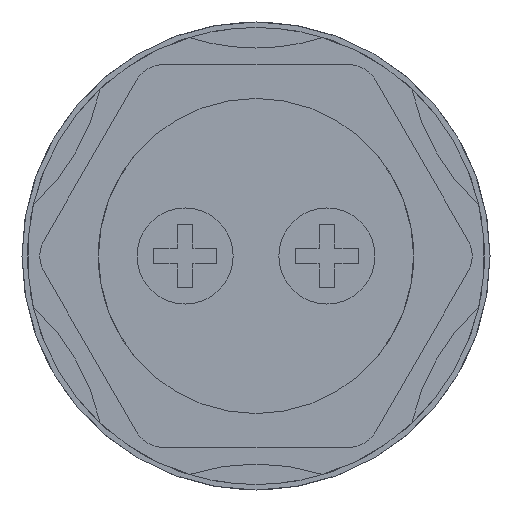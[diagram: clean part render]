
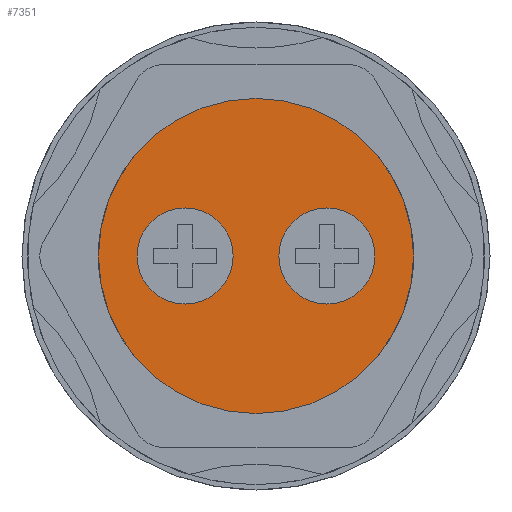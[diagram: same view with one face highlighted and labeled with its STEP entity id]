
A CAD part, front view. The second image highlights one B-rep face of the part: STEP entity #7351.
In plain terms, the highlighted planar face has unit normal (0, -1, 0).
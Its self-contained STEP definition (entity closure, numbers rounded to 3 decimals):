
#236 = CARTESIAN_POINT ( 'NONE',  ( 4.5, -32.5, 0. ) ) ;
#240 = DIRECTION ( 'NONE',  ( 0., 1., 0. ) ) ;
#241 = DIRECTION ( 'NONE',  ( 0., 0., -1. ) ) ;
#848 = AXIS2_PLACEMENT_3D ( 'NONE', #7595, #7555, #7553 ) ;
#1453 = AXIS2_PLACEMENT_3D ( 'NONE', #4081, #4142, #4169 ) ;
#1795 = CARTESIAN_POINT ( 'NONE',  ( 4.5, -32.5, 0. ) ) ;
#1796 = DIRECTION ( 'NONE',  ( 0., 1., 0. ) ) ;
#1797 = DIRECTION ( 'NONE',  ( 0., 0., -1. ) ) ;
#1939 = PLANE ( 'NONE',  #6064 ) ;
#1940 = CARTESIAN_POINT ( 'NONE',  ( 0., -32.5, 0. ) ) ;
#1941 = DIRECTION ( 'NONE',  ( 0., -1., 0. ) ) ;
#1942 = DIRECTION ( 'NONE',  ( 0., 0., -1. ) ) ;
#1999 = CARTESIAN_POINT ( 'NONE',  ( -4.5, -32.5, 0. ) ) ;
#2003 = DIRECTION ( 'NONE',  ( 0., -1., 0. ) ) ;
#2004 = DIRECTION ( 'NONE',  ( 0., 0., -1. ) ) ;
#2263 = CARTESIAN_POINT ( 'NONE',  ( -4.5, -32.5, 0. ) ) ;
#2264 = DIRECTION ( 'NONE',  ( 0., -1., 0. ) ) ;
#2265 = DIRECTION ( 'NONE',  ( 0., 0., -1. ) ) ;
#2398 = VERTEX_POINT ( 'NONE', #4940 ) ;
#2444 = VERTEX_POINT ( 'NONE', #5358 ) ;
#2600 = VERTEX_POINT ( 'NONE', #5014 ) ;
#2615 = VERTEX_POINT ( 'NONE', #5136 ) ;
#2830 = ORIENTED_EDGE ( 'NONE', *, *, #7443, .F. ) ;
#3546 = AXIS2_PLACEMENT_3D ( 'NONE', #236, #240, #241 ) ;
#3813 = EDGE_CURVE ( 'NONE', #2398, #2615, #5493, .T. ) ;
#4081 = CARTESIAN_POINT ( 'NONE',  ( 0., -32.5, 0. ) ) ;
#4142 = DIRECTION ( 'NONE',  ( 0., -1., 0. ) ) ;
#4169 = DIRECTION ( 'NONE',  ( 0., 0., -1. ) ) ;
#4289 = EDGE_LOOP ( 'NONE', ( #6433, #4425 ) ) ;
#4343 = ORIENTED_EDGE ( 'NONE', *, *, #5392, .T. ) ;
#4410 = EDGE_LOOP ( 'NONE', ( #2830, #6596 ) ) ;
#4425 = ORIENTED_EDGE ( 'NONE', *, *, #7013, .T. ) ;
#4529 = ORIENTED_EDGE ( 'NONE', *, *, #3813, .T. ) ;
#4582 = EDGE_LOOP ( 'NONE', ( #4343, #4529 ) ) ;
#4940 = CARTESIAN_POINT ( 'NONE',  ( 0., -32.5, 10. ) ) ;
#4980 = VERTEX_POINT ( 'NONE', #7489 ) ;
#5014 = CARTESIAN_POINT ( 'NONE',  ( 4.5, -32.5, 3.05 ) ) ;
#5085 = VERTEX_POINT ( 'NONE', #7614 ) ;
#5136 = CARTESIAN_POINT ( 'NONE',  ( 0., -32.5, -10. ) ) ;
#5358 = CARTESIAN_POINT ( 'NONE',  ( -4.5, -32.5, 3.05 ) ) ;
#5392 = EDGE_CURVE ( 'NONE', #2615, #2398, #5520, .T. ) ;
#5493 = CIRCLE ( 'NONE', #1453, 10. ) ;
#5520 = CIRCLE ( 'NONE', #848, 10. ) ;
#5607 = CIRCLE ( 'NONE', #3546, 3.05 ) ;
#5704 = CIRCLE ( 'NONE', #6022, 3.05 ) ;
#5729 = CIRCLE ( 'NONE', #6278, 3.05 ) ;
#5752 = CIRCLE ( 'NONE', #5857, 3.05 ) ;
#5814 = FACE_BOUND ( 'NONE', #4289, .T. ) ;
#5857 = AXIS2_PLACEMENT_3D ( 'NONE', #2263, #2264, #2265 ) ;
#6022 = AXIS2_PLACEMENT_3D ( 'NONE', #1795, #1796, #1797 ) ;
#6044 = FACE_OUTER_BOUND ( 'NONE', #4582, .T. ) ;
#6064 = AXIS2_PLACEMENT_3D ( 'NONE', #1940, #1941, #1942 ) ;
#6127 = FACE_BOUND ( 'NONE', #4410, .T. ) ;
#6278 = AXIS2_PLACEMENT_3D ( 'NONE', #1999, #2003, #2004 ) ;
#6433 = ORIENTED_EDGE ( 'NONE', *, *, #7314, .T. ) ;
#6596 = ORIENTED_EDGE ( 'NONE', *, *, #7369, .F. ) ;
#7013 = EDGE_CURVE ( 'NONE', #2600, #4980, #5607, .T. ) ;
#7314 = EDGE_CURVE ( 'NONE', #4980, #2600, #5704, .T. ) ;
#7351 = ADVANCED_FACE ( 'NONE', ( #6044, #6127, #5814 ), #1939, .T. ) ;
#7369 = EDGE_CURVE ( 'NONE', #2444, #5085, #5729, .T. ) ;
#7443 = EDGE_CURVE ( 'NONE', #5085, #2444, #5752, .T. ) ;
#7489 = CARTESIAN_POINT ( 'NONE',  ( 4.5, -32.5, -3.05 ) ) ;
#7553 = DIRECTION ( 'NONE',  ( 0., 0., -1. ) ) ;
#7555 = DIRECTION ( 'NONE',  ( 0., -1., 0. ) ) ;
#7595 = CARTESIAN_POINT ( 'NONE',  ( 0., -32.5, 0. ) ) ;
#7614 = CARTESIAN_POINT ( 'NONE',  ( -4.5, -32.5, -3.05 ) ) ;
